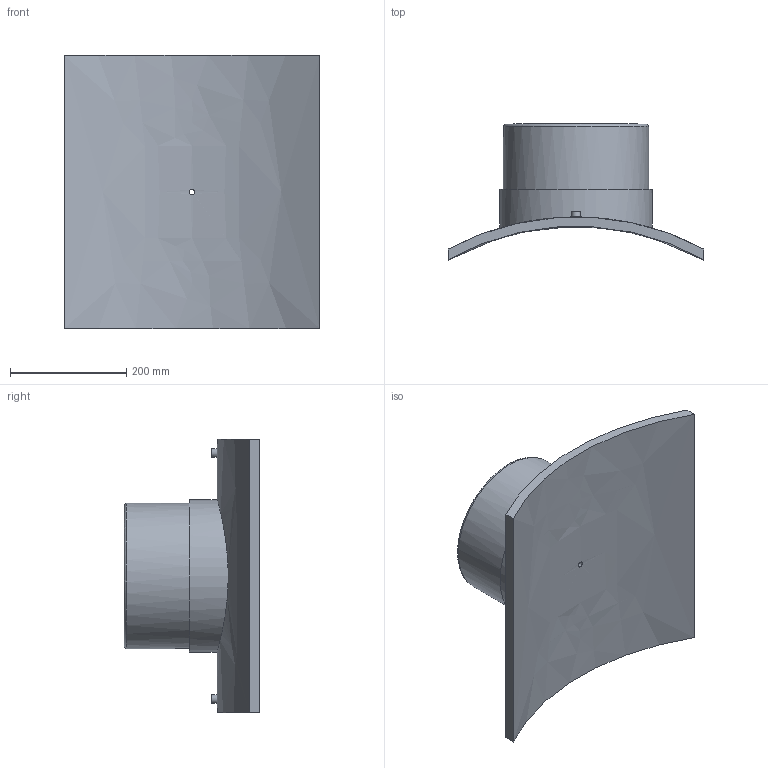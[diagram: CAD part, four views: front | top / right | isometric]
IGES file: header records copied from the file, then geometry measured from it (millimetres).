
Global section: file name: 495803900250T; native system: Autodesk Inventor 2019; preprocessor: unknown; author: KIM; date: 20240404.115005; units: millimetre
Bounding box: 440 x 233.44 x 470 mm (x, y, z)
Volume: 6692704.8 mm3; surface area: 708132.1 mm2
Topology: 1 solids, 1 shells, 29 faces, 60 edges, 43 vertices
Faces by surface type: bspline 29
